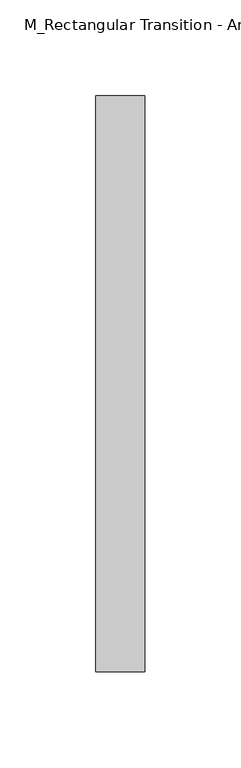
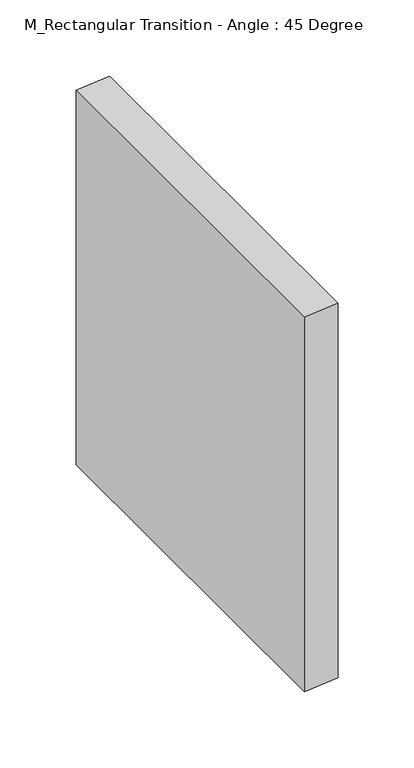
"""IFC4 building model written with IfcOpenShell, lengths in millimetres: duct fitting geometry, M_Rectangular Transition - Angle : 45 Degree."""

import ifcopenshell
import ifcopenshell.guid

model = None  # the IFC model being written
_history = None  # IfcOwnerHistory: only IFC2X3 demands one
_inside = {}  # id of a spatial element -> (the spatial element, [elements in it])
_under = {}  # id of a project, library or spatial element -> (it, [spatial elements below it])
_declared = {}  # id of a project -> (the project, [libraries it declares])
_typed = {}  # id of a type object -> (the type object, [elements of that type])
_made_of = {}  # id of a material, layer set ... -> (it, [elements and type objects made of it])


def new_model(schema):
    """Start an empty IFC model of exactly this schema.

    Asked for "IFC4X3", IfcOpenShell would pick the latest addendum, in which some entities
    have other attributes; the version numbers below select the first issue.
    IFC2X3 requires an IfcOwnerHistory on every rooted entity: one is made here for all.
    """
    global model, _history
    if schema == "IFC4X3":
        model = ifcopenshell.file(schema_version=(4, 3, 0, 0))
    else:
        model = ifcopenshell.file(schema=schema)
    _inside.clear()
    _under.clear()
    _declared.clear()
    _typed.clear()
    _made_of.clear()
    _history = None
    if model.schema == "IFC2X3":
        org = make("IfcOrganization", Name="unknown")
        user = make(
            "IfcPersonAndOrganization",
            ThePerson=make("IfcPerson", FamilyName="unknown"),
            TheOrganization=org,
        )
        app = make(
            "IfcApplication",
            ApplicationDeveloper=org,
            Version="unknown",
            ApplicationFullName="unknown",
            ApplicationIdentifier="unknown",
        )
        _history = make(
            "IfcOwnerHistory",
            OwningUser=user,
            OwningApplication=app,
            ChangeAction="ADDED",
            CreationDate=0,
        )
    return model


def make(cls, **values):
    """One entity of the class cls with the attributes given. An attribute that is None is left unset."""
    return model.create_entity(
        cls, **{name: value for name, value in values.items() if value is not None}
    )


def rooted(cls, **values):
    """An entity with a GlobalId (a new one), such as an element, a storey or a relation."""
    return make(cls, GlobalId=ifcopenshell.guid.new(), OwnerHistory=_history, **values)


def si_unit(unit_type, name, prefix=None):
    """IfcSIUnit, for example si_unit("LENGTHUNIT", "METRE", prefix="MILLI")."""
    return make("IfcSIUnit", UnitType=unit_type, Prefix=prefix, Name=name)


def assignment(units):
    """IfcUnitAssignment: the units of a project."""
    return None if units is None else make("IfcUnitAssignment", Units=units)


def point(xyz):
    """IfcCartesianPoint."""
    return None if xyz is None else make("IfcCartesianPoint", Coordinates=xyz)


def direction(xyz):
    """IfcDirection."""
    return None if xyz is None else make("IfcDirection", DirectionRatios=xyz)


def frame(location, z_axis=None, x_axis=None):
    """IfcAxis2Placement3D, a coordinate frame: its origin and axes. An axis left out is left unset."""
    return make(
        "IfcAxis2Placement3D",
        Location=point(location),
        Axis=direction(z_axis),
        RefDirection=direction(x_axis),
    )


def origin():
    """The frame at (0, 0, 0) with its axes left unset."""
    return frame((0.0, 0.0, 0.0))


def place(relative_to, where):
    """IfcLocalPlacement: puts the frame where relative to a parent placement (None: the world)."""
    return make(
        "IfcLocalPlacement", PlacementRelTo=relative_to, RelativePlacement=where
    )


def context(
    kind, dimensions, precision=None, world=None, true_north=None, identifier=None
):
    """IfcGeometricRepresentationContext, for example the 3D "Model" context."""
    return make(
        "IfcGeometricRepresentationContext",
        ContextIdentifier=identifier,
        ContextType=kind,
        CoordinateSpaceDimension=dimensions,
        Precision=precision,
        WorldCoordinateSystem=world,
        TrueNorth=true_north,
    )


def project(units=None, contexts=None):
    """IfcProject with its units and contexts."""
    return rooted(
        "IfcProject",
        Name="project",
        RepresentationContexts=contexts,
        UnitsInContext=assignment(units),
    )


def spatial(cls, under=None, at=None, **own):
    """A site, building, storey or space (cls), placed at a placement, below another one or the project."""
    s = rooted(cls, ObjectPlacement=at, **own)
    if under is not None:
        _under.setdefault(under.id(), (under, []))[1].append(s)
    return s


def faces_of(points, faces, orient=None, outer=None):
    """IfcFace entities. A face is a list of loops; a loop is a list of indices into points, from 0.

    orient and outer hold one flag for each loop. By default every Orientation is true, the
    first loop of a face is its IfcFaceOuterBound and the others are IfcFaceBound.
    """
    made = []
    for i, loops in enumerate(faces):
        bounds = []
        for j, loop in enumerate(loops):
            is_outer = j == 0 if outer is None else outer[i][j]
            bounds.append(
                make(
                    "IfcFaceOuterBound" if is_outer else "IfcFaceBound",
                    Bound=make("IfcPolyLoop", Polygon=[points[k] for k in loop]),
                    Orientation=True if orient is None else orient[i][j],
                )
            )
        made.append(make("IfcFace", Bounds=bounds))
    return made


def faceted_brep(points, faces, orient=None, outer=None, voids=None):
    """IfcFacetedBrep: a solid bounded by flat faces; with voids (closed shells), ...WithVoids."""
    shared = [point(p) for p in points]
    hull = make("IfcClosedShell", CfsFaces=faces_of(shared, faces, orient, outer))
    if voids is None:
        return make("IfcFacetedBrep", Outer=hull)
    return make(
        "IfcFacetedBrepWithVoids",
        Outer=hull,
        Voids=[
            make(cls, CfsFaces=faces_of(shared, fs, o, b)) for cls, fs, o, b in voids
        ],
    )


def shape(context_of_items, identifier, shape_type, items):
    """IfcShapeRepresentation: the items that make up one representation, for example the "Body"."""
    return make(
        "IfcShapeRepresentation",
        ContextOfItems=context_of_items,
        RepresentationIdentifier=identifier,
        RepresentationType=shape_type,
        Items=items,
    )


def source(mapping_origin, context_of_items, identifier, shape_type, items):
    """IfcRepresentationMap: a shape defined once, which mapped items show again and again."""
    return make(
        "IfcRepresentationMap",
        MappingOrigin=mapping_origin,
        MappedRepresentation=shape(context_of_items, identifier, shape_type, items),
    )


def transform(
    local_origin,
    x_axis=None,
    y_axis=None,
    z_axis=None,
    scale=None,
    scale2=None,
    scale3=None,
    uniform=True,
):
    """IfcCartesianTransformationOperator3D, or its non-uniform kind. x_axis, y_axis, z_axis: its Axis1, 2, 3."""
    if uniform:
        return make(
            "IfcCartesianTransformationOperator3D",
            Axis1=direction(x_axis),
            Axis2=direction(y_axis),
            LocalOrigin=point(local_origin),
            Scale=scale,
            Axis3=direction(z_axis),
        )
    return make(
        "IfcCartesianTransformationOperator3DnonUniform",
        Axis1=direction(x_axis),
        Axis2=direction(y_axis),
        LocalOrigin=point(local_origin),
        Scale=scale,
        Axis3=direction(z_axis),
        Scale2=scale2,
        Scale3=scale3,
    )


def mapped(mapping_source, mapping_target):
    """IfcMappedItem: shows the shape of a source again, moved by a transform."""
    return make(
        "IfcMappedItem", MappingSource=mapping_source, MappingTarget=mapping_target
    )


def made_of(thing, what):
    """Note that an element or type object is made of a material, layer set ...; save() writes the relation."""
    if what is not None:
        _made_of.setdefault(what.id(), (what, []))[1].append(thing)
    return thing


def element(
    cls,
    number,
    at=None,
    inside=None,
    cuts=None,
    type_object=None,
    material=None,
    context=None,
    identifier="Body",
    shape_type=None,
    held_by="IfcProductDefinitionShape",
    body=None,
    shapes=None,
    **own,
):
    """One element of the class cls, such as IfcWall. Its Tag is "e" and its number.

    at: its placement. inside: the storey or other place that contains it. cuts: it is an
    opening in that element (IfcRelVoidsElement). A single representation is given by context,
    identifier, shape_type and body (its items); several are given by shapes. held_by: the class
    of the entity that holds the representations. save() writes the other relations.
    """
    e = rooted(cls, Tag="e%d" % number, ObjectPlacement=at, **own)
    if body is not None:
        shapes = [shape(context, identifier, shape_type, body)]
    if shapes is not None:
        e.Representation = make(held_by, Representations=shapes)
    if inside is not None:
        _inside.setdefault(inside.id(), (inside, []))[1].append(e)
    if cuts is not None:
        rooted(
            "IfcRelVoidsElement", RelatingBuildingElement=cuts, RelatedOpeningElement=e
        )
    if type_object is not None:
        _typed.setdefault(type_object.id(), (type_object, []))[1].append(e)
    return made_of(e, material)


def aggregate(whole, parts):
    """IfcRelAggregates: a whole, such as a stair, and the parts it consists of."""
    return rooted("IfcRelAggregates", RelatingObject=whole, RelatedObjects=parts)


def save(model, path):
    """Write the relations noted so far, then the file.

    IfcRelAggregates (storeys below a building ...), IfcRelContainedInSpatialStructure (elements
    in a storey), IfcRelDefinesByType, IfcRelAssociatesMaterial and IfcRelDeclares: one each for
    every whole, place, type object, material and project.
    """
    for whole, parts in _under.values():
        aggregate(whole, parts)
    for where, things in _inside.values():
        rooted(
            "IfcRelContainedInSpatialStructure",
            RelatedElements=things,
            RelatingStructure=where,
        )
    for kind, things in _typed.values():
        rooted("IfcRelDefinesByType", RelatedObjects=things, RelatingType=kind)
    for what, things in _made_of.values():
        rooted("IfcRelAssociatesMaterial", RelatedObjects=things, RelatingMaterial=what)
    for by, libraries in _declared.values():
        rooted("IfcRelDeclares", RelatingContext=by, RelatedDefinitions=libraries)
    model.write(path)


def m_rectangular_transition_angle_45_degree_f75a56a8(model_context):
    return source(origin(), model_context, "Body", "Brep", [
        faceted_brep([(25.4, 149.9926956, 152.3529303), (25.4, -150.0073044, 152.3529303), (25.4, -150.0073044, -147.6470697), (25.4, 149.9926956, -147.6470697), (0.0, 150.0, 150.0), (0.0, 150.0, -150.0), (0.0, -150.0, -150.0), (0.0, -150.0, 150.0)], [[[0, 1, 2, 3]], [[4, 5, 6, 7]], [[4, 0, 3, 5]], [[5, 3, 2, 6]], [[6, 2, 1, 7]], [[7, 1, 0, 4]]]),
        faceted_brep([(25.4, 149.9926956, 152.3529303), (25.4, -150.0073044, 152.3529303), (25.4, -150.0073044, -147.6470697), (25.4, 149.9926956, -147.6470697), (0.0, 150.0, 150.0), (0.0, 150.0, -150.0), (0.0, -150.0, -150.0), (0.0, -150.0, 150.0)], [[[0, 1, 2, 3]], [[4, 5, 6, 7]], [[4, 0, 3, 5]], [[5, 3, 2, 6]], [[6, 2, 1, 7]], [[7, 1, 0, 4]]]),
        faceted_brep([(25.4, 149.9926956, 152.3529303), (25.4, -150.0073044, 152.3529303), (25.4, -150.0073044, -147.6470697), (25.4, 149.9926956, -147.6470697), (0.0, 150.0, 150.0), (0.0, 150.0, -150.0), (0.0, -150.0, -150.0), (0.0, -150.0, 150.0)], [[[0, 1, 2, 3]], [[4, 5, 6, 7]], [[4, 0, 3, 5]], [[5, 3, 2, 6]], [[6, 2, 1, 7]], [[7, 1, 0, 4]]]),
    ])


if __name__ == "__main__":
    model = new_model("IFC4")
    model_context = context("Model", 3, world=origin())
    ifc_project = project(units=[si_unit("LENGTHUNIT", "METRE", prefix="MILLI")], contexts=[model_context])
    site = spatial("IfcSite", under=ifc_project)
    building = spatial("IfcBuilding", under=site)
    placement = place(None, origin())
    m_rectangular_transition_angle_45_degree_shape = m_rectangular_transition_angle_45_degree_f75a56a8(model_context)
    element("IfcDuctFitting", 1, ObjectType="M_Rectangular Transition - Angle : 45 Degree", at=placement, inside=building, context=model_context, shape_type="MappedRepresentation", body=[
        mapped(m_rectangular_transition_angle_45_degree_shape, transform((0.0, 0.0, 0.0), x_axis=(1.0, 0.0, 0.0), y_axis=(0.0, 1.0, 0.0), z_axis=(0.0, 0.0, 1.0))),
    ])
    save(model, "model.ifc")
